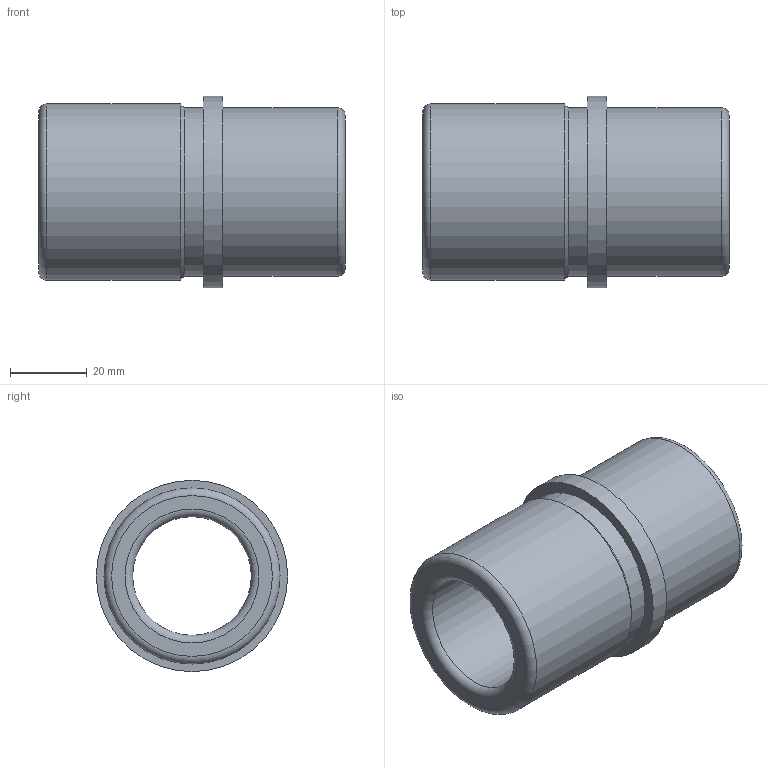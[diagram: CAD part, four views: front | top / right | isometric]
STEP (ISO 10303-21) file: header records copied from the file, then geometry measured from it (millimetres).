
FILE_DESCRIPTION( ( 'STEP AP214' ), '1' );
FILE_NAME( 'p:/temp/worker_7/temp/exporttempdir_4452_189_emaVf/format_1/WZ - 4053 24 x 80 - 31.stp', '2020-12-04T20:02:32', ( 'License CC BY-ND 4.0' ), ( 'CADENAS' ), ' ', 'PARTsolutions', ' ' );
FILE_SCHEMA( ( 'AUTOMOTIVE_DESIGN { 1 0 10303 214 1 1 1 1 }' ) );
Length unit declared in the file: millimetre
Products named in the file (1): _WZ - 4053 24 x 80 - 31
Bounding box: 80 x 50 x 50 mm (x, y, z)
Volume: 68366.9 mm3; surface area: 21386.9 mm2
Topology: 1 solids, 1 shells, 14 faces, 24 edges, 14 vertices
Faces by surface type: cylinder 5, plane 4, torus 4, cone 1
Full cylindrical faces by diameter (mm): 31 x1, 44 x2, 46 x1, 50 x1
Entity records: 416 total; most frequent: DIRECTION 58, CARTESIAN_POINT 43, AXIS2_PLACEMENT_3D 29, EDGE_LOOP 28, ORIENTED_EDGE 28, FACE_OUTER_BOUND 23, STYLED_ITEM 14, PRESENTATION_STYLE_ASSIGNMENT 14
